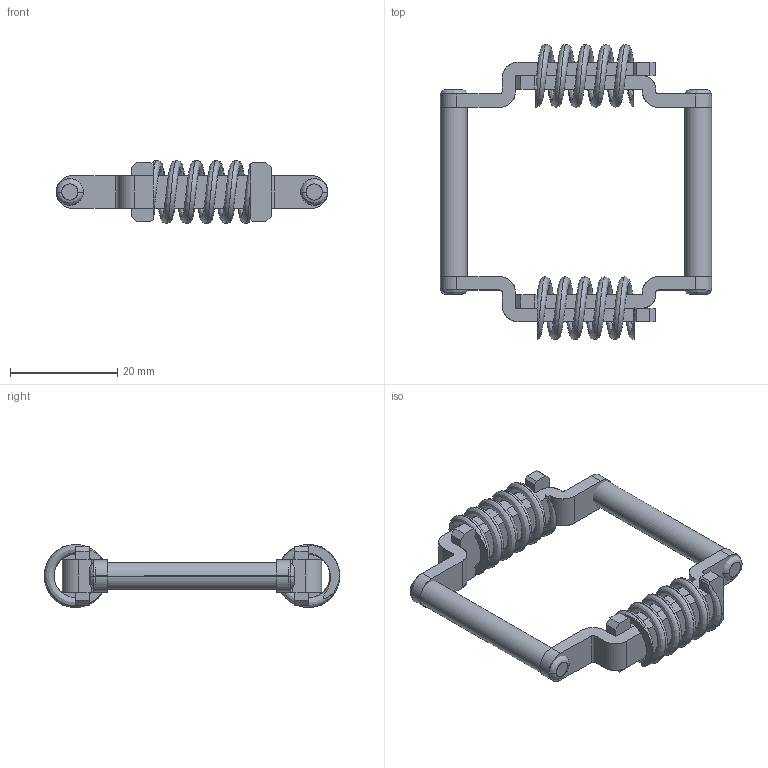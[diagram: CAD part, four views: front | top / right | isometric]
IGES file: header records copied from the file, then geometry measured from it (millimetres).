
Start section: SolidWorks IGES FILE using analytic representation for surfaces
Global section: file name: C:\Documents and Settings\lecoutey\Bureau\GP 31\Assemblage ressort 31.IGS; native system: SolidWorks 2004 by SolidWorks Corporation; preprocessor: Version 5.3; author: lecoutey; date: 050329.143947; units: millimetre
Bounding box: 50.5 x 55 x 11.7 mm (x, y, z)
Surface area: 6268.2 mm2 (no closed solid volume)
Topology: 0 solids, 0 shells, 128 faces, 1604 edges, 1604 vertices
Faces by surface type: bspline 94, revolution 34
